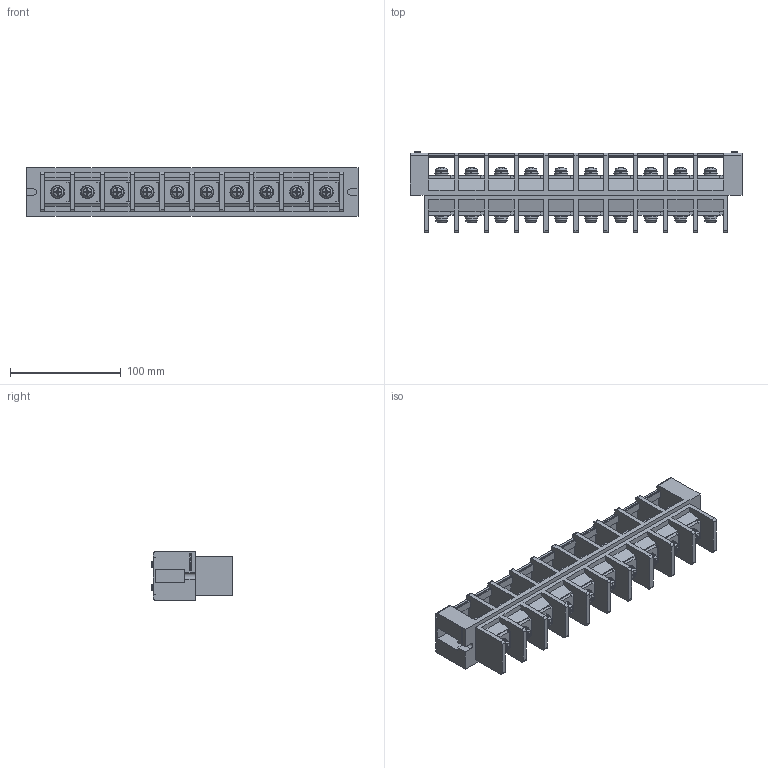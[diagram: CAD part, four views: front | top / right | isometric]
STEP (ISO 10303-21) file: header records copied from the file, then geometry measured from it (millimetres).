
FILE_DESCRIPTION(/* description */ ('Alibre Inc.'),/* implementation_level */ '2;1');
FILE_NAME(/* name */ 'export0',/* time_stamp */ '2016-04-05T18:29:37+09:00',/* author */ (''),/* organization */ (''),/* preprocessor_version */ 'ST-DEVELOPER v14',/* originating_system */ 'Alibre',/* authorisation */ '');
FILE_SCHEMA (('CONFIG_CONTROL_DESIGN'));
Length unit declared in the file: centimetre
Products named in the file (1): ID_1
Bounding box: 300 x 73.94 x 44 mm (x, y, z)
Volume: 330094.5 mm3; surface area: 160635.3 mm2
Topology: 12 solids, 14 shells, 1448 faces, 4045 edges, 2626 vertices
Faces by surface type: plane 1008, cylinder 236, cone 108, bspline 52, torus 22, sphere 22
Full cylindrical faces by diameter (mm): 3 x4, 5.5 x2, 6 x20, 8 x20, 10.5 x20, 12.5 x20
Entity records: 43738 total; most frequent: CARTESIAN_POINT 8815, ORIENTED_EDGE 7770, DIRECTION 5996, EDGE_CURVE 3885, VERTEX_POINT 2594, VECTOR 2438, LINE 2438, AXIS2_PLACEMENT_3D 2279
